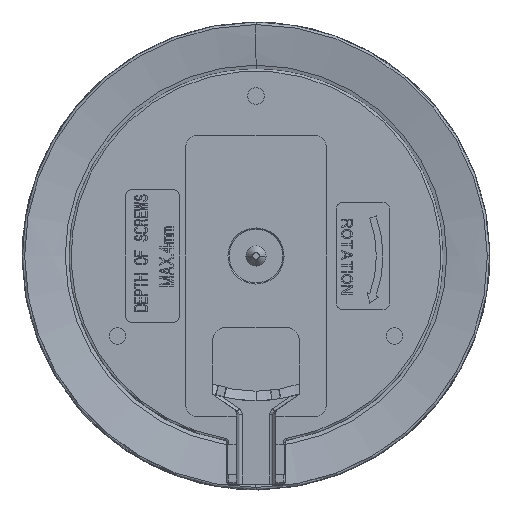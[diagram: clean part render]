
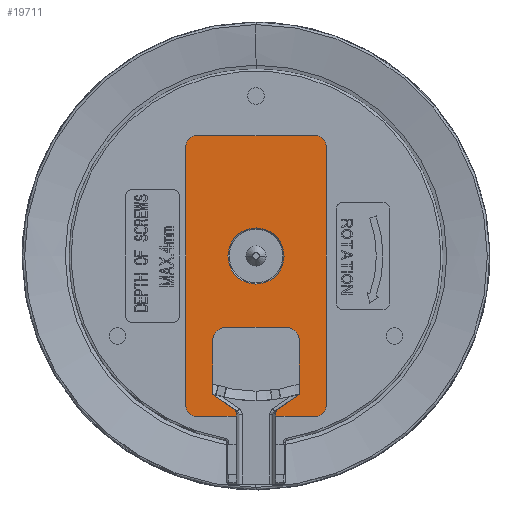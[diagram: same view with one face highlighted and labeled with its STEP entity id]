
A CAD part, front view. The second image highlights one B-rep face of the part: STEP entity #19711.
In plain terms, the highlighted planar face has unit normal (0, -1, 0).
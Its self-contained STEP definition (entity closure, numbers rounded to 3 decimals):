
#664=CARTESIAN_POINT('',(0.,0.1,0.));
#665=DIRECTION('',(0.,-1.,0.));
#666=DIRECTION('',(1.,0.,0.));
#667=AXIS2_PLACEMENT_3D('',#664,#665,#666);
#679=CARTESIAN_POINT('',(9.,0.1,16.5));
#680=DIRECTION('',(0.,-1.,0.));
#681=DIRECTION('',(1.,0.,0.));
#682=AXIS2_PLACEMENT_3D('',#679,#680,#681);
#687=DIRECTION('',(0.,0.,1.));
#688=VECTOR('',#687,39.);
#689=CARTESIAN_POINT('',(10.5,0.1,-22.5));
#690=LINE('',#689,#688);
#694=CARTESIAN_POINT('',(9.,0.1,-22.5));
#695=DIRECTION('',(0.,-1.,0.));
#696=DIRECTION('',(0.,0.,-1.));
#697=AXIS2_PLACEMENT_3D('',#694,#695,#696);
#702=DIRECTION('',(1.,0.,0.));
#703=VECTOR('',#702,6.021);
#704=CARTESIAN_POINT('',(2.979,0.1,-24.));
#705=LINE('',#704,#703);
#709=DIRECTION('',(1.,0.,0.));
#710=VECTOR('',#709,6.021);
#711=CARTESIAN_POINT('',(-9.,0.1,-24.));
#712=LINE('',#711,#710);
#716=CARTESIAN_POINT('',(-9.,0.1,-22.5));
#717=DIRECTION('',(0.,-1.,0.));
#718=DIRECTION('',(-1.,0.,0.));
#719=AXIS2_PLACEMENT_3D('',#716,#717,#718);
#724=DIRECTION('',(0.,0.,-1.));
#725=VECTOR('',#724,39.);
#726=CARTESIAN_POINT('',(-10.5,0.1,16.5));
#727=LINE('',#726,#725);
#731=CARTESIAN_POINT('',(-9.,0.1,16.5));
#732=DIRECTION('',(0.,-1.,0.));
#733=DIRECTION('',(0.,0.,1.));
#734=AXIS2_PLACEMENT_3D('',#731,#732,#733);
#739=DIRECTION('',(-1.,0.,0.));
#740=VECTOR('',#739,18.);
#741=CARTESIAN_POINT('',(9.,0.1,18.));
#742=LINE('',#741,#740);
#746=CARTESIAN_POINT('',(0.,0.1,0.));
#747=DIRECTION('',(0.,-1.,0.));
#748=DIRECTION('',(-1.,0.,0.));
#749=AXIS2_PLACEMENT_3D('',#746,#747,#748);
#1635=DIRECTION('',(0.821,0.,0.571));
#1636=VECTOR('',#1635,4.025);
#1637=CARTESIAN_POINT('',(3.197,0.1,-23.003));
#1638=LINE('',#1637,#1636);
#1656=CARTESIAN_POINT('',(2.979,0.1,-23.419));
#1657=CARTESIAN_POINT('',(2.979,0.1,-23.242));
#1658=CARTESIAN_POINT('',(3.052,0.1,-23.104));
#1659=CARTESIAN_POINT('',(3.197,0.1,-23.003));
#1664=DIRECTION('',(0.,0.,-1.));
#1665=VECTOR('',#1664,0.581);
#1666=CARTESIAN_POINT('',(2.979,0.1,-23.419));
#1667=LINE('',#1666,#1665);
#1788=DIRECTION('',(0.,0.,-1.));
#1789=VECTOR('',#1788,0.581);
#1790=CARTESIAN_POINT('',(-2.979,0.1,-23.419));
#1791=LINE('',#1790,#1789);
#1846=CARTESIAN_POINT('',(-2.979,0.1,-23.419));
#1847=CARTESIAN_POINT('',(-2.979,0.1,-23.242));
#1848=CARTESIAN_POINT('',(-3.052,0.1,-23.104));
#1849=CARTESIAN_POINT('',(-3.197,0.1,-23.003));
#1854=DIRECTION('',(0.821,0.,-0.571));
#1855=VECTOR('',#1854,4.025);
#1856=CARTESIAN_POINT('',(-6.5,0.1,-20.704));
#1857=LINE('',#1856,#1855);
#1875=DIRECTION('',(0.,0.,1.));
#1876=VECTOR('',#1875,8.004);
#1877=CARTESIAN_POINT('',(-6.5,0.1,-20.704));
#1878=LINE('',#1877,#1876);
#1896=CARTESIAN_POINT('',(-4.5,0.1,-12.7));
#1897=DIRECTION('',(0.,-1.,0.));
#1898=DIRECTION('',(0.,0.,1.));
#1899=AXIS2_PLACEMENT_3D('',#1896,#1897,#1898);
#1912=DIRECTION('',(1.,0.,0.));
#1913=VECTOR('',#1912,9.);
#1914=CARTESIAN_POINT('',(-4.5,0.1,-10.7));
#1915=LINE('',#1914,#1913);
#1933=CARTESIAN_POINT('',(4.5,0.1,-12.7));
#1934=DIRECTION('',(0.,-1.,0.));
#1935=DIRECTION('',(1.,0.,0.));
#1936=AXIS2_PLACEMENT_3D('',#1933,#1934,#1935);
#1949=DIRECTION('',(0.,0.,-1.));
#1950=VECTOR('',#1949,8.004);
#1951=CARTESIAN_POINT('',(6.5,0.1,-12.7));
#1952=LINE('',#1951,#1950);
#16392=CARTESIAN_POINT('',(-6.5,0.1,-20.704));
#16393=CARTESIAN_POINT('',(-6.5,0.1,-12.7));
#16394=VERTEX_POINT('',#16392);
#16395=VERTEX_POINT('',#16393);
#16396=CARTESIAN_POINT('',(-4.5,0.1,-10.7));
#16397=CARTESIAN_POINT('',(4.5,0.1,-10.7));
#16398=VERTEX_POINT('',#16396);
#16399=VERTEX_POINT('',#16397);
#16400=CARTESIAN_POINT('',(6.5,0.1,-12.7));
#16401=CARTESIAN_POINT('',(6.5,0.1,-20.704));
#16402=VERTEX_POINT('',#16400);
#16403=VERTEX_POINT('',#16401);
#16404=CARTESIAN_POINT('',(-3.197,0.1,-23.003));
#16405=VERTEX_POINT('',#16404);
#16406=CARTESIAN_POINT('',(3.197,0.1,-23.003));
#16407=VERTEX_POINT('',#16406);
#16408=CARTESIAN_POINT('',(2.979,0.1,-23.419));
#16409=CARTESIAN_POINT('',(2.979,0.1,-24.));
#16410=VERTEX_POINT('',#16408);
#16411=VERTEX_POINT('',#16409);
#16414=CARTESIAN_POINT('',(-2.979,0.1,-23.419));
#16415=CARTESIAN_POINT('',(-2.979,0.1,-24.));
#16416=VERTEX_POINT('',#16414);
#16417=VERTEX_POINT('',#16415);
#16420=CARTESIAN_POINT('',(-4.2,0.1,0.));
#16421=CARTESIAN_POINT('',(4.2,0.1,0.));
#16422=VERTEX_POINT('',#16420);
#16423=VERTEX_POINT('',#16421);
#16424=CARTESIAN_POINT('',(10.5,0.1,16.5));
#16425=CARTESIAN_POINT('',(9.,0.1,18.));
#16426=VERTEX_POINT('',#16424);
#16427=VERTEX_POINT('',#16425);
#16432=CARTESIAN_POINT('',(-9.,0.1,18.));
#16433=CARTESIAN_POINT('',(-10.5,0.1,16.5));
#16434=VERTEX_POINT('',#16432);
#16435=VERTEX_POINT('',#16433);
#16440=CARTESIAN_POINT('',(9.,0.1,-24.));
#16441=CARTESIAN_POINT('',(10.5,0.1,-22.5));
#16442=VERTEX_POINT('',#16440);
#16443=VERTEX_POINT('',#16441);
#16448=CARTESIAN_POINT('',(-10.5,0.1,-22.5));
#16449=CARTESIAN_POINT('',(-9.,0.1,-24.));
#16450=VERTEX_POINT('',#16448);
#16451=VERTEX_POINT('',#16449);
#19659=CARTESIAN_POINT('',(0.,0.1,0.));
#19660=DIRECTION('',(0.,-1.,0.));
#19661=DIRECTION('',(-1.,0.,0.));
#19662=AXIS2_PLACEMENT_3D('',#19659,#19660,#19661);
#19663=PLANE('',#19662);
#19665=ORIENTED_EDGE('',*,*,#19664,.F.);
#19667=ORIENTED_EDGE('',*,*,#19666,.F.);
#19669=ORIENTED_EDGE('',*,*,#19668,.F.);
#19671=ORIENTED_EDGE('',*,*,#19670,.F.);
#19673=ORIENTED_EDGE('',*,*,#19672,.F.);
#19675=ORIENTED_EDGE('',*,*,#19674,.T.);
#19677=ORIENTED_EDGE('',*,*,#19676,.T.);
#19679=ORIENTED_EDGE('',*,*,#19678,.F.);
#19681=ORIENTED_EDGE('',*,*,#19680,.T.);
#19683=ORIENTED_EDGE('',*,*,#19682,.F.);
#19685=ORIENTED_EDGE('',*,*,#19684,.T.);
#19687=ORIENTED_EDGE('',*,*,#19686,.F.);
#19689=ORIENTED_EDGE('',*,*,#19688,.T.);
#19691=ORIENTED_EDGE('',*,*,#19690,.F.);
#19693=ORIENTED_EDGE('',*,*,#19692,.T.);
#19695=ORIENTED_EDGE('',*,*,#19694,.F.);
#19697=ORIENTED_EDGE('',*,*,#19696,.F.);
#19699=ORIENTED_EDGE('',*,*,#19698,.F.);
#19701=ORIENTED_EDGE('',*,*,#19700,.F.);
#19703=ORIENTED_EDGE('',*,*,#19702,.F.);
#19704=EDGE_LOOP('',(#19665,#19667,#19669,#19671,#19673,#19675,#19677,#19679,
#19681,#19683,#19685,#19687,#19689,#19691,#19693,#19695,#19697,#19699,#19701,
#19703));
#19705=FACE_OUTER_BOUND('',#19704,.F.);
#19707=ORIENTED_EDGE('',*,*,#19706,.T.);
#19708=ORIENTED_EDGE('',*,*,#19642,.T.);
#19709=EDGE_LOOP('',(#19707,#19708));
#19710=FACE_BOUND('',#19709,.F.);
#19711=ADVANCED_FACE('',(#19705,#19710),#19663,.T.);
#668=CIRCLE('',#667,4.2);
#683=CIRCLE('',#682,1.5);
#698=CIRCLE('',#697,1.5);
#720=CIRCLE('',#719,1.5);
#735=CIRCLE('',#734,1.5);
#750=CIRCLE('',#749,4.2);
#1660=B_SPLINE_CURVE_WITH_KNOTS('',3,(#1656,#1657,#1658,#1659),.UNSPECIFIED.,
.F.,.F.,(4,4),(0.,1.),.UNSPECIFIED.);
#1850=B_SPLINE_CURVE_WITH_KNOTS('',3,(#1846,#1847,#1848,#1849),.UNSPECIFIED.,
.F.,.F.,(4,4),(0.,1.),.UNSPECIFIED.);
#1900=CIRCLE('',#1899,2.);
#1937=CIRCLE('',#1936,2.);
#19642=EDGE_CURVE('',#16423,#16422,#668,.T.);
#19664=EDGE_CURVE('',#16426,#16427,#683,.T.);
#19666=EDGE_CURVE('',#16443,#16426,#690,.T.);
#19668=EDGE_CURVE('',#16442,#16443,#698,.T.);
#19670=EDGE_CURVE('',#16411,#16442,#705,.T.);
#19672=EDGE_CURVE('',#16410,#16411,#1667,.T.);
#19674=EDGE_CURVE('',#16410,#16407,#1660,.T.);
#19676=EDGE_CURVE('',#16407,#16403,#1638,.T.);
#19678=EDGE_CURVE('',#16402,#16403,#1952,.T.);
#19680=EDGE_CURVE('',#16402,#16399,#1937,.T.);
#19682=EDGE_CURVE('',#16398,#16399,#1915,.T.);
#19684=EDGE_CURVE('',#16398,#16395,#1900,.T.);
#19686=EDGE_CURVE('',#16394,#16395,#1878,.T.);
#19688=EDGE_CURVE('',#16394,#16405,#1857,.T.);
#19690=EDGE_CURVE('',#16416,#16405,#1850,.T.);
#19692=EDGE_CURVE('',#16416,#16417,#1791,.T.);
#19694=EDGE_CURVE('',#16451,#16417,#712,.T.);
#19696=EDGE_CURVE('',#16450,#16451,#720,.T.);
#19698=EDGE_CURVE('',#16435,#16450,#727,.T.);
#19700=EDGE_CURVE('',#16434,#16435,#735,.T.);
#19702=EDGE_CURVE('',#16427,#16434,#742,.T.);
#19706=EDGE_CURVE('',#16422,#16423,#750,.T.);
